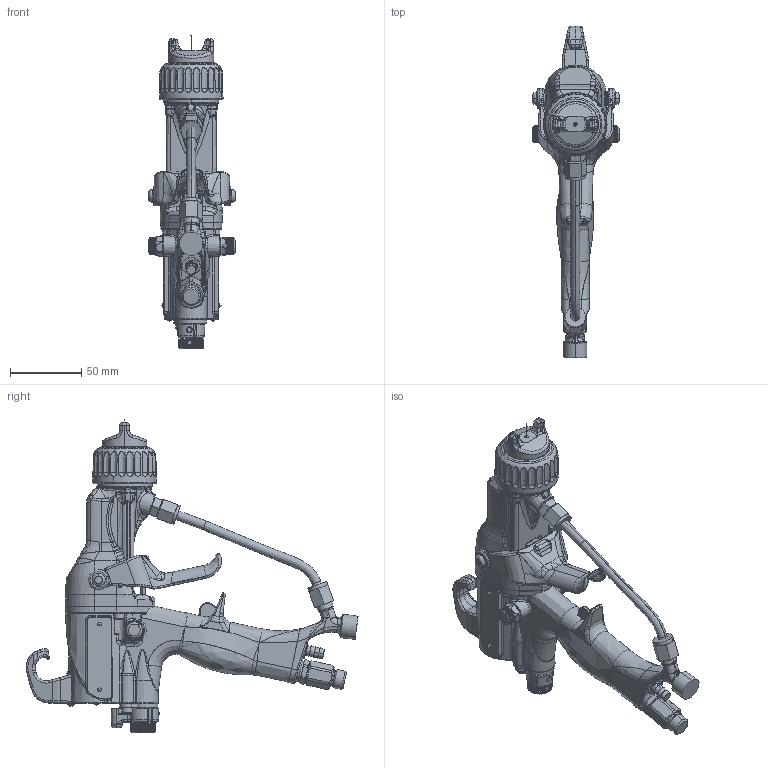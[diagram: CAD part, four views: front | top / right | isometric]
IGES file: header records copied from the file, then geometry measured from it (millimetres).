
Start section:  PTC IGES file: l40t10-en-w.igs
Global section: file name: l40t10-en-w.igs; native system: Creo Parametric by PTC Inc.; preprocessor: 2019030; author: qusrh3; organization: Unknown; date: 20200518.163450; units: inch
Bounding box: 60.96 x 233.22 x 220.37 mm (x, y, z)
Surface area: 83894.8 mm2 (no closed solid volume)
Topology: 0 solids, 0 shells, 2613 faces, 13096 edges, 13089 vertices
Faces by surface type: bspline 1381, revolution 1226, extrusion 6
